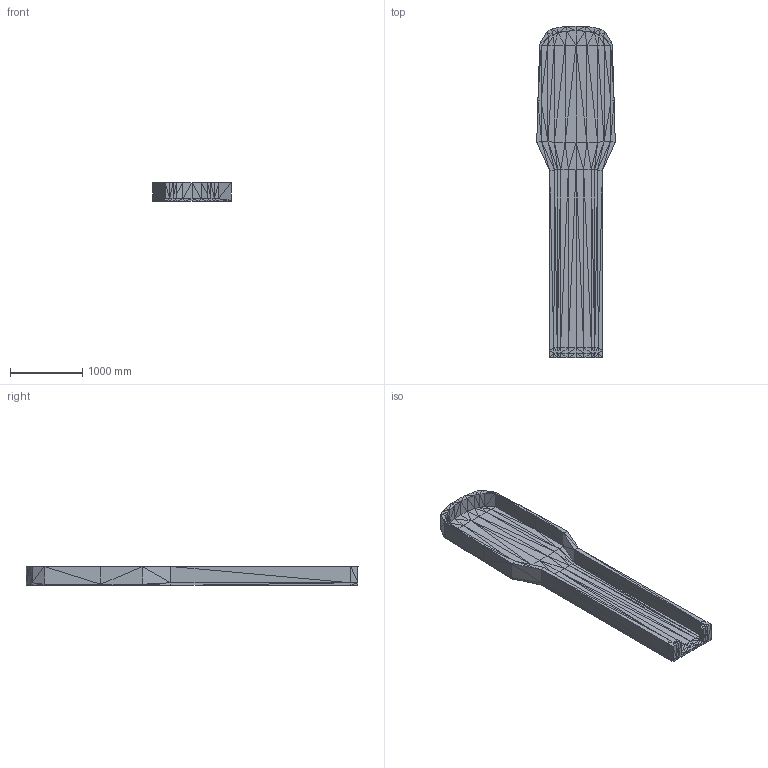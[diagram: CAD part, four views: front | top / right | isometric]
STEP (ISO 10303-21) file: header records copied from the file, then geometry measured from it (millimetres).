
FILE_DESCRIPTION(/* description */ (''),/* implementation_level */ '2;1');
FILE_NAME(/* name */ 'LowerPart.stp',/* time_stamp */ '2013-3-14T16:56:49.3211600',/* author */ ('Marco'),/* organization */ (''),/* preprocessor_version */ 'InStep v2',/* originating_system */ 'InStep V2.0',/* authorisation */ '');
FILE_SCHEMA (('AUTOMOTIVE_DESIGN { 1 0 10303 214 1 1 1 1 }'));
Length unit declared in the file: centimetre
Products named in the file (1): None
Bounding box: 1084.02 x 4583.75 x 261.5 mm (x, y, z)
Volume: 280296441 mm3; surface area: 12699620.9 mm2
Topology: 1 solids, 1 shells, 402 faces, 603 edges, 203 vertices
Faces by surface type: plane 402
Entity records: 6224 total; most frequent: ORIENTED_EDGE 1206, DIRECTION 885, LINE 603, EDGE_CURVE 603, VECTOR 481, AXIS2_PLACEMENT_3D 403, EDGE_LOOP 402, FACE_OUTER_BOUND 402
